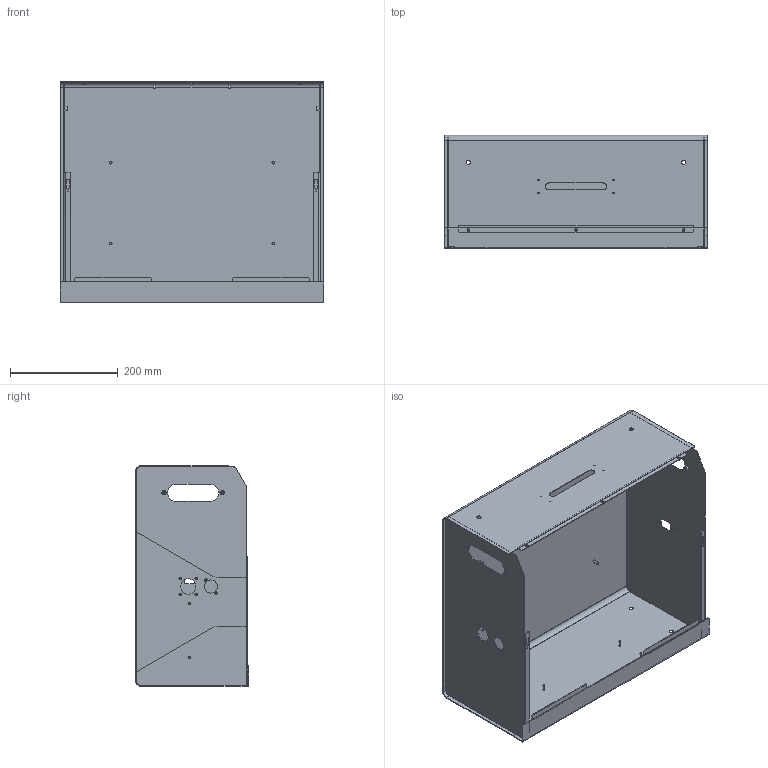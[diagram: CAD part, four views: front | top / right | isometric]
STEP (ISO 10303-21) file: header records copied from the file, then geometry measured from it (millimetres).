
FILE_DESCRIPTION (( 'STEP AP214' ), '1' );
FILE_NAME ('JYXJ-000-005-007-A 綴窒眊极.STEP', '2025-07-15T03:23:44', ( '' ), ( '' ), 'SwSTEP 2.0', 'SolidWorks 2020', '' );
FILE_SCHEMA (( 'AUTOMOTIVE_DESIGN' ));
Length unit declared in the file: millimetre
Products named in the file (1): JYXJ-000-005-007-A 綴窒眊极
Bounding box: 490 x 210 x 409 mm (x, y, z)
Volume: 858616.1 mm3; surface area: 1150734.6 mm2
Topology: 14 solids, 14 shells, 584 faces, 1422 edges, 884 vertices
Faces by surface type: plane 211, cone 200, cylinder 173
Entity records: 18215 total; most frequent: CARTESIAN_POINT 3739, DIRECTION 2932, ORIENTED_EDGE 2836, EDGE_CURVE 1418, AXIS2_PLACEMENT_3D 1101, VERTEX_POINT 884, LINE 730, VECTOR 730
